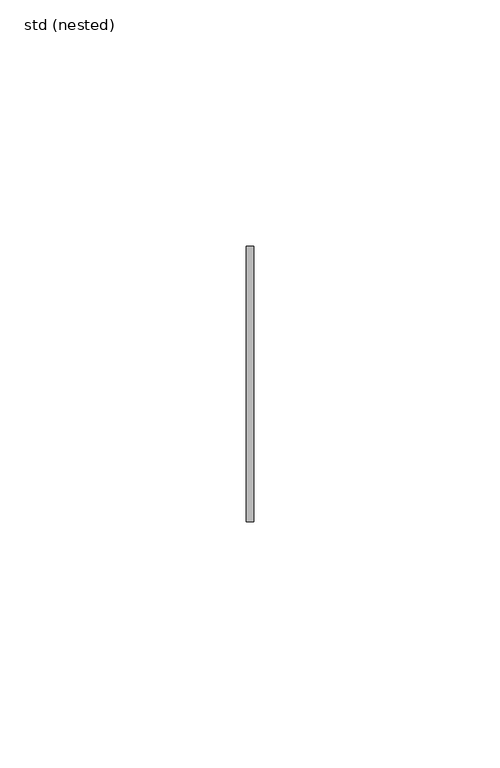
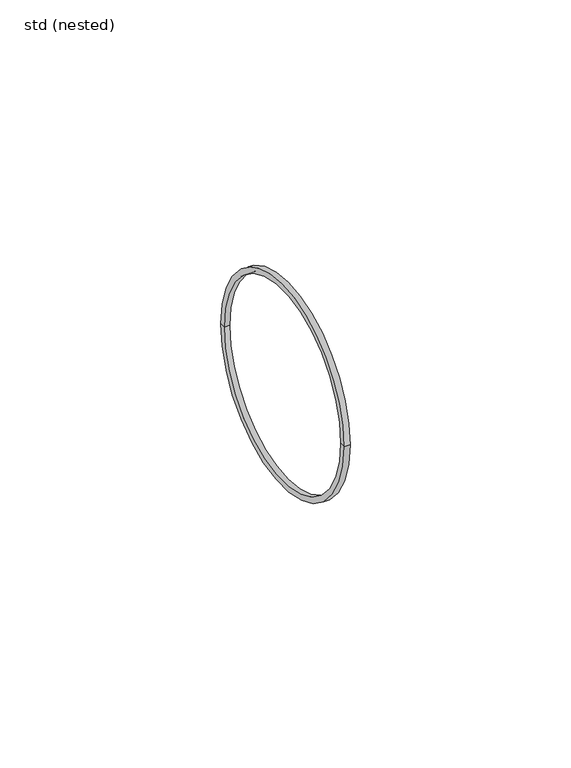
"""IFC4 building model written with IfcOpenShell, lengths in millimetres: pipe fitting geometry, ZZZ_do not use_PIF_ST_UN_GM-X seal non transitional_ACO : std (nested)."""

import ifcopenshell
import ifcopenshell.guid

model = None  # the IFC model being written
_history = None  # IfcOwnerHistory: only IFC2X3 demands one
_inside = {}  # id of a spatial element -> (the spatial element, [elements in it])
_under = {}  # id of a project, library or spatial element -> (it, [spatial elements below it])
_declared = {}  # id of a project -> (the project, [libraries it declares])
_typed = {}  # id of a type object -> (the type object, [elements of that type])
_made_of = {}  # id of a material, layer set ... -> (it, [elements and type objects made of it])


def new_model(schema):
    """Start an empty IFC model of exactly this schema.

    Asked for "IFC4X3", IfcOpenShell would pick the latest addendum, in which some entities
    have other attributes; the version numbers below select the first issue.
    IFC2X3 requires an IfcOwnerHistory on every rooted entity: one is made here for all.
    """
    global model, _history
    if schema == "IFC4X3":
        model = ifcopenshell.file(schema_version=(4, 3, 0, 0))
    else:
        model = ifcopenshell.file(schema=schema)
    _inside.clear()
    _under.clear()
    _declared.clear()
    _typed.clear()
    _made_of.clear()
    _history = None
    if model.schema == "IFC2X3":
        org = make("IfcOrganization", Name="unknown")
        user = make(
            "IfcPersonAndOrganization",
            ThePerson=make("IfcPerson", FamilyName="unknown"),
            TheOrganization=org,
        )
        app = make(
            "IfcApplication",
            ApplicationDeveloper=org,
            Version="unknown",
            ApplicationFullName="unknown",
            ApplicationIdentifier="unknown",
        )
        _history = make(
            "IfcOwnerHistory",
            OwningUser=user,
            OwningApplication=app,
            ChangeAction="ADDED",
            CreationDate=0,
        )
    return model


def make(cls, **values):
    """One entity of the class cls with the attributes given. An attribute that is None is left unset."""
    return model.create_entity(
        cls, **{name: value for name, value in values.items() if value is not None}
    )


def rooted(cls, **values):
    """An entity with a GlobalId (a new one), such as an element, a storey or a relation."""
    return make(cls, GlobalId=ifcopenshell.guid.new(), OwnerHistory=_history, **values)


def si_unit(unit_type, name, prefix=None):
    """IfcSIUnit, for example si_unit("LENGTHUNIT", "METRE", prefix="MILLI")."""
    return make("IfcSIUnit", UnitType=unit_type, Prefix=prefix, Name=name)


def assignment(units):
    """IfcUnitAssignment: the units of a project."""
    return None if units is None else make("IfcUnitAssignment", Units=units)


def point(xyz):
    """IfcCartesianPoint."""
    return None if xyz is None else make("IfcCartesianPoint", Coordinates=xyz)


def direction(xyz):
    """IfcDirection."""
    return None if xyz is None else make("IfcDirection", DirectionRatios=xyz)


def frame(location, z_axis=None, x_axis=None):
    """IfcAxis2Placement3D, a coordinate frame: its origin and axes. An axis left out is left unset."""
    return make(
        "IfcAxis2Placement3D",
        Location=point(location),
        Axis=direction(z_axis),
        RefDirection=direction(x_axis),
    )


def origin():
    """The frame at (0, 0, 0) with its axes left unset."""
    return frame((0.0, 0.0, 0.0))


def place(relative_to, where):
    """IfcLocalPlacement: puts the frame where relative to a parent placement (None: the world)."""
    return make(
        "IfcLocalPlacement", PlacementRelTo=relative_to, RelativePlacement=where
    )


def context(
    kind, dimensions, precision=None, world=None, true_north=None, identifier=None
):
    """IfcGeometricRepresentationContext, for example the 3D "Model" context."""
    return make(
        "IfcGeometricRepresentationContext",
        ContextIdentifier=identifier,
        ContextType=kind,
        CoordinateSpaceDimension=dimensions,
        Precision=precision,
        WorldCoordinateSystem=world,
        TrueNorth=true_north,
    )


def project(units=None, contexts=None):
    """IfcProject with its units and contexts."""
    return rooted(
        "IfcProject",
        Name="project",
        RepresentationContexts=contexts,
        UnitsInContext=assignment(units),
    )


def spatial(cls, under=None, at=None, **own):
    """A site, building, storey or space (cls), placed at a placement, below another one or the project."""
    s = rooted(cls, ObjectPlacement=at, **own)
    if under is not None:
        _under.setdefault(under.id(), (under, []))[1].append(s)
    return s


def polyline(points):
    """IfcPolyline through the points."""
    return make("IfcPolyline", Points=[point(p) for p in points])


def circle_curve(where, radius):
    """IfcCircle in the frame where."""
    return make("IfcCircle", Position=where, Radius=radius)


def shape(context_of_items, identifier, shape_type, items):
    """IfcShapeRepresentation: the items that make up one representation, for example the "Body"."""
    return make(
        "IfcShapeRepresentation",
        ContextOfItems=context_of_items,
        RepresentationIdentifier=identifier,
        RepresentationType=shape_type,
        Items=items,
    )


def source(mapping_origin, context_of_items, identifier, shape_type, items):
    """IfcRepresentationMap: a shape defined once, which mapped items show again and again."""
    return make(
        "IfcRepresentationMap",
        MappingOrigin=mapping_origin,
        MappedRepresentation=shape(context_of_items, identifier, shape_type, items),
    )


def transform(
    local_origin,
    x_axis=None,
    y_axis=None,
    z_axis=None,
    scale=None,
    scale2=None,
    scale3=None,
    uniform=True,
):
    """IfcCartesianTransformationOperator3D, or its non-uniform kind. x_axis, y_axis, z_axis: its Axis1, 2, 3."""
    if uniform:
        return make(
            "IfcCartesianTransformationOperator3D",
            Axis1=direction(x_axis),
            Axis2=direction(y_axis),
            LocalOrigin=point(local_origin),
            Scale=scale,
            Axis3=direction(z_axis),
        )
    return make(
        "IfcCartesianTransformationOperator3DnonUniform",
        Axis1=direction(x_axis),
        Axis2=direction(y_axis),
        LocalOrigin=point(local_origin),
        Scale=scale,
        Axis3=direction(z_axis),
        Scale2=scale2,
        Scale3=scale3,
    )


def mapped(mapping_source, mapping_target):
    """IfcMappedItem: shows the shape of a source again, moved by a transform."""
    return make(
        "IfcMappedItem", MappingSource=mapping_source, MappingTarget=mapping_target
    )


def made_of(thing, what):
    """Note that an element or type object is made of a material, layer set ...; save() writes the relation."""
    if what is not None:
        _made_of.setdefault(what.id(), (what, []))[1].append(thing)
    return thing


def element(
    cls,
    number,
    at=None,
    inside=None,
    cuts=None,
    type_object=None,
    material=None,
    context=None,
    identifier="Body",
    shape_type=None,
    held_by="IfcProductDefinitionShape",
    body=None,
    shapes=None,
    **own,
):
    """One element of the class cls, such as IfcWall. Its Tag is "e" and its number.

    at: its placement. inside: the storey or other place that contains it. cuts: it is an
    opening in that element (IfcRelVoidsElement). A single representation is given by context,
    identifier, shape_type and body (its items); several are given by shapes. held_by: the class
    of the entity that holds the representations. save() writes the other relations.
    """
    e = rooted(cls, Tag="e%d" % number, ObjectPlacement=at, **own)
    if body is not None:
        shapes = [shape(context, identifier, shape_type, body)]
    if shapes is not None:
        e.Representation = make(held_by, Representations=shapes)
    if inside is not None:
        _inside.setdefault(inside.id(), (inside, []))[1].append(e)
    if cuts is not None:
        rooted(
            "IfcRelVoidsElement", RelatingBuildingElement=cuts, RelatedOpeningElement=e
        )
    if type_object is not None:
        _typed.setdefault(type_object.id(), (type_object, []))[1].append(e)
    return made_of(e, material)


def aggregate(whole, parts):
    """IfcRelAggregates: a whole, such as a stair, and the parts it consists of."""
    return rooted("IfcRelAggregates", RelatingObject=whole, RelatedObjects=parts)


def save(model, path):
    """Write the relations noted so far, then the file.

    IfcRelAggregates (storeys below a building ...), IfcRelContainedInSpatialStructure (elements
    in a storey), IfcRelDefinesByType, IfcRelAssociatesMaterial and IfcRelDeclares: one each for
    every whole, place, type object, material and project.
    """
    for whole, parts in _under.values():
        aggregate(whole, parts)
    for where, things in _inside.values():
        rooted(
            "IfcRelContainedInSpatialStructure",
            RelatedElements=things,
            RelatingStructure=where,
        )
    for kind, things in _typed.values():
        rooted("IfcRelDefinesByType", RelatedObjects=things, RelatingType=kind)
    for what, things in _made_of.values():
        rooted("IfcRelAssociatesMaterial", RelatedObjects=things, RelatingMaterial=what)
    for by, libraries in _declared.values():
        rooted("IfcRelDeclares", RelatingContext=by, RelatedDefinitions=libraries)
    model.write(path)


def plane_surface(at):
    """IfcPlane: the flat surface through the origin of the frame at, square to its z axis."""
    return make("IfcPlane", Position=at)


def cylinder_surface(at, radius):
    """IfcCylindricalSurface: all points at the distance radius from the z axis of the frame at."""
    return make("IfcCylindricalSurface", Position=at, Radius=radius)


def revolved_surface(curve, axis_point, axis_direction):
    """IfcSurfaceOfRevolution: the curve turned about the line through axis_point along axis_direction."""
    return make(
        "IfcSurfaceOfRevolution",
        SweptCurve=make("IfcArbitraryOpenProfileDef", ProfileType="CURVE", Curve=curve),
        AxisPosition=make("IfcAxis1Placement", Location=point(axis_point), Axis=direction(axis_direction)),
    )


def advanced_brep(points, edges, surfaces, faces):
    """IfcAdvancedBrep: a solid bounded by faces that lie on surfaces and meet in shared edges.

    An edge is (start, end): straight between two places in points (the first is 0);
    or (start, end, curve); or (start, end, curve, False) where it runs against its curve.
    A face is (place in surfaces, loops), or (place, loops, False) where it looks against
    its surface's normal. A loop lists edges by number (the first is 1), with a minus sign
    where the edge is run from its end to its start. The first loop is the outer one.
    """
    corners = [point(p) for p in points]
    vertices = [make("IfcVertexPoint", VertexGeometry=c) for c in corners]
    made = []
    for start, end, *more in edges:
        made.append(
            make(
                "IfcEdgeCurve",
                EdgeStart=vertices[start],
                EdgeEnd=vertices[end],
                EdgeGeometry=more[0] if more else make("IfcPolyline", Points=[corners[start], corners[end]]),
                SameSense=more[1] if len(more) > 1 else True,
            )
        )
    hull = []
    for where, loops, *sense in faces:
        bounds = []
        for j, loop in enumerate(loops):
            ring = [make("IfcOrientedEdge", EdgeElement=made[abs(k) - 1], Orientation=k > 0) for k in loop]
            bounds.append(
                make(
                    "IfcFaceOuterBound" if j == 0 else "IfcFaceBound",
                    Bound=make("IfcEdgeLoop", EdgeList=ring),
                    Orientation=True,
                )
            )
        hull.append(make("IfcAdvancedFace", Bounds=bounds, FaceSurface=surfaces[where], SameSense=sense[0] if sense else True))
    return make("IfcAdvancedBrep", Outer=make("IfcClosedShell", CfsFaces=hull))


def std_nested_352c3d66(model_context):
    return source(origin(), model_context, "Body", "AdvancedBrep", [
        advanced_brep(
        [(0.0, -28.0, 0.0), (0.0, 28.0, 0.0), (1.5, 28.0, 0.0), (1.5, -28.0, 0.0), (0.0, -26.5, 0.0), (0.0, 26.5, 0.0), (1.5, -26.5, 0.0), (1.5, 26.5, 0.0)],
        [
            (0, 1, circle_curve(frame((0.0, 0.0, 0.0), z_axis=(1.0, 0.0, 0.0), x_axis=(0.0, 1.0, 0.0)), 28.0)),
            (1, 2),
            (2, 3, circle_curve(frame((1.5, 0.0, 0.0), z_axis=(-1.0, 0.0, 0.0), x_axis=(0.0, 1.0, 0.0)), 28.0)),
            (3, 0),
            (1, 0, circle_curve(frame((0.0, 0.0, 0.0), z_axis=(1.0, 0.0, 0.0), x_axis=(0.0, 1.0, 0.0)), 28.0)),
            (3, 2, circle_curve(frame((1.5, 0.0, 0.0), z_axis=(-1.0, 0.0, 0.0), x_axis=(0.0, 1.0, 0.0)), 28.0)),
            (4, 5, circle_curve(frame((0.0, 0.0, 0.0), z_axis=(1.0, 0.0, 0.0), x_axis=(0.0, 1.0, 0.0)), 26.5)),
            (5, 1),
            (0, 4),
            (5, 4, circle_curve(frame((0.0, 0.0, 0.0), z_axis=(1.0, 0.0, 0.0), x_axis=(0.0, 1.0, 0.0)), 26.5)),
            (6, 7, circle_curve(frame((1.5, 0.0, 0.0), z_axis=(1.0, 0.0, 0.0), x_axis=(0.0, 1.0, 0.0)), 26.5)),
            (7, 5),
            (4, 6),
            (7, 6, circle_curve(frame((1.5, 0.0, 0.0), z_axis=(1.0, 0.0, 0.0), x_axis=(0.0, 1.0, 0.0)), 26.5)),
            (2, 7),
            (6, 3),
        ],
        [
            cylinder_surface(frame((-0.8180655, 0.0, 0.0), z_axis=(-1.0, 0.0, 0.0), x_axis=(0.0, 1.0, 0.0)), 28.0),
            plane_surface(frame((0.0, 0.0, 0.0), z_axis=(-1.0, 0.0, 0.0), x_axis=(0.0, 1.0, 0.0))),
            revolved_surface(polyline([(0.0, 26.5, 0.0), (1.5, 26.5, 0.0)]), (-0.8180655, 0.0, 0.0), (-1.0, 0.0, 0.0)),
            plane_surface(frame((1.5, 0.0, 0.0), z_axis=(1.0, 0.0, 0.0), x_axis=(0.0, 1.0, 0.0))),
        ],
        [
            (0, [[1, 2, 3, 4]]),
            (0, [[5, -4, 6, -2]]),
            (1, [[7, 8, -1, 9]]),
            (1, [[10, -9, -5, -8]]),
            (2, [[11, 12, -7, 13]]),
            (2, [[14, -13, -10, -12]]),
            (3, [[-3, 15, -11, 16]]),
            (3, [[-6, -16, -14, -15]]),
        ],
    ),
    ])


if __name__ == "__main__":
    model = new_model("IFC4")
    model_context = context("Model", 3, world=origin())
    ifc_project = project(units=[si_unit("LENGTHUNIT", "METRE", prefix="MILLI")], contexts=[model_context])
    site = spatial("IfcSite", under=ifc_project)
    building = spatial("IfcBuilding", under=site)
    placement = place(None, origin())
    std_nested_shape = std_nested_352c3d66(model_context)
    element("IfcPipeFitting", 1, ObjectType="ZZZ_do not use_PIF_ST_UN_GM-X seal non transitional_ACO : std (nested)", at=placement, inside=building, context=model_context, shape_type="MappedRepresentation", body=[
        mapped(std_nested_shape, transform((0.0, 0.0, 0.0), x_axis=(1.0, 0.0, 0.0), y_axis=(0.0, 1.0, 0.0), z_axis=(0.0, 0.0, 1.0))),
    ])
    save(model, "model.ifc")
